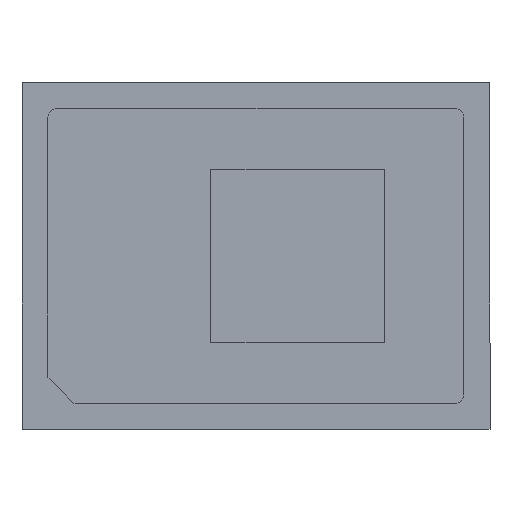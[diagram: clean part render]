
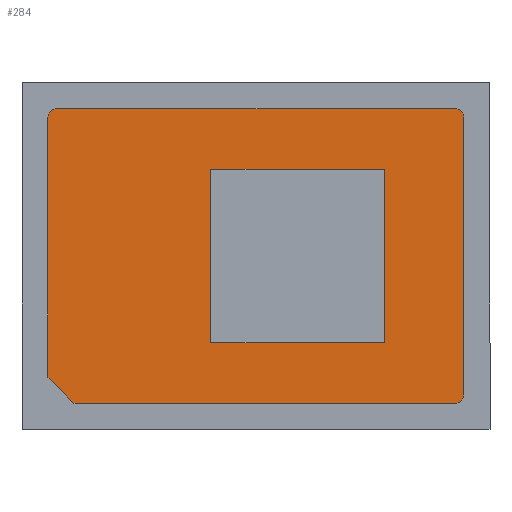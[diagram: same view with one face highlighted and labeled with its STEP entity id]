
A CAD part, top view. The second image highlights one B-rep face of the part: STEP entity #284.
In plain terms, the highlighted planar face has unit normal (0, 0, 1).
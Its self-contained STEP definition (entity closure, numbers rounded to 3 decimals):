
#1 = EDGE_LOOP ( 'NONE', ( #157, #183, #210, #5 ) ) ;
#5 = ORIENTED_EDGE ( 'NONE', *, *, #391, .F. ) ;
#6 = DIRECTION ( 'NONE',  ( -1., 0., 0. ) ) ;
#11 = AXIS2_PLACEMENT_3D ( 'NONE', #326, #202, #322 ) ;
#12 = CARTESIAN_POINT ( 'NONE',  ( -1.2, 0., 0. ) ) ;
#23 = EDGE_CURVE ( 'NONE', #57, #253, #315, .T. ) ;
#30 = CARTESIAN_POINT ( 'NONE',  ( 1.2, 0., 0. ) ) ;
#31 = VECTOR ( 'NONE', #261, 1000. ) ;
#32 = VECTOR ( 'NONE', #252, 1000. ) ;
#37 = ORIENTED_EDGE ( 'NONE', *, *, #411, .T. ) ;
#45 = CARTESIAN_POINT ( 'NONE',  ( -1.15, 0.85, 0. ) ) ;
#48 = CARTESIAN_POINT ( 'NONE',  ( -1.05, -0.85, 0. ) ) ;
#57 = VERTEX_POINT ( 'NONE', #213 ) ;
#64 = LINE ( 'NONE', #144, #79 ) ;
#65 = AXIS2_PLACEMENT_3D ( 'NONE', #166, #462, #282 ) ;
#67 = VECTOR ( 'NONE', #317, 1000. ) ;
#69 = VERTEX_POINT ( 'NONE', #45 ) ;
#73 = LINE ( 'NONE', #230, #478 ) ;
#77 = VERTEX_POINT ( 'NONE', #399 ) ;
#79 = VECTOR ( 'NONE', #352, 1000. ) ;
#84 = LINE ( 'NONE', #390, #151 ) ;
#87 = VERTEX_POINT ( 'NONE', #97 ) ;
#88 = EDGE_CURVE ( 'NONE', #385, #413, #434, .T. ) ;
#92 = LINE ( 'NONE', #209, #96 ) ;
#96 = VECTOR ( 'NONE', #218, 1000. ) ;
#97 = CARTESIAN_POINT ( 'NONE',  ( 1.15, 0.85, 0. ) ) ;
#100 = CARTESIAN_POINT ( 'NONE',  ( -1.05, -0.85, 0. ) ) ;
#110 = VERTEX_POINT ( 'NONE', #100 ) ;
#111 = EDGE_CURVE ( 'NONE', #241, #400, #369, .T. ) ;
#114 = VERTEX_POINT ( 'NONE', #474 ) ;
#120 = CARTESIAN_POINT ( 'NONE',  ( -1.15, 0.8, 0. ) ) ;
#122 = CARTESIAN_POINT ( 'NONE',  ( 0.74, -0.5, 0. ) ) ;
#125 = CIRCLE ( 'NONE', #459, 0.05 ) ;
#144 = CARTESIAN_POINT ( 'NONE',  ( 0.74, 0., 0. ) ) ;
#151 = VECTOR ( 'NONE', #320, 1000. ) ;
#152 = EDGE_CURVE ( 'NONE', #413, #414, #64, .T. ) ;
#157 = ORIENTED_EDGE ( 'NONE', *, *, #152, .F. ) ;
#166 = CARTESIAN_POINT ( 'NONE',  ( 1.15, -0.8, 0. ) ) ;
#173 = VECTOR ( 'NONE', #451, 1000. ) ;
#183 = ORIENTED_EDGE ( 'NONE', *, *, #88, .F. ) ;
#202 = DIRECTION ( 'NONE',  ( 0., 0., -1. ) ) ;
#204 = LINE ( 'NONE', #328, #67 ) ;
#205 = ORIENTED_EDGE ( 'NONE', *, *, #402, .T. ) ;
#209 = CARTESIAN_POINT ( 'NONE',  ( 0., 0.5, 0. ) ) ;
#210 = ORIENTED_EDGE ( 'NONE', *, *, #445, .F. ) ;
#213 = CARTESIAN_POINT ( 'NONE',  ( -1.2, 0.8, 0. ) ) ;
#214 = CARTESIAN_POINT ( 'NONE',  ( 1.15, 0.8, 0. ) ) ;
#218 = DIRECTION ( 'NONE',  ( -1., 0., 0. ) ) ;
#219 = CARTESIAN_POINT ( 'NONE',  ( -1.2, -0.7, 0. ) ) ;
#220 = CARTESIAN_POINT ( 'NONE',  ( 0., -0.5, 0. ) ) ;
#223 = EDGE_CURVE ( 'NONE', #69, #57, #125, .T. ) ;
#227 = ORIENTED_EDGE ( 'NONE', *, *, #111, .T. ) ;
#230 = CARTESIAN_POINT ( 'NONE',  ( -0.26, 0., 0. ) ) ;
#241 = VERTEX_POINT ( 'NONE', #479 ) ;
#242 = DIRECTION ( 'NONE',  ( 0., 0., 1. ) ) ;
#247 = VECTOR ( 'NONE', #472, 1000. ) ;
#251 = ORIENTED_EDGE ( 'NONE', *, *, #293, .T. ) ;
#252 = DIRECTION ( 'NONE',  ( 1., 0., 0. ) ) ;
#253 = VERTEX_POINT ( 'NONE', #219 ) ;
#259 = PLANE ( 'NONE',  #11 ) ;
#261 = DIRECTION ( 'NONE',  ( 1., 0., 0. ) ) ;
#278 = CARTESIAN_POINT ( 'NONE',  ( -0.26, -0.5, 0. ) ) ;
#282 = DIRECTION ( 'NONE',  ( 1., 0., 0. ) ) ;
#284 = ADVANCED_FACE ( 'NONE', ( #363, #470 ), #259, .F. ) ;
#286 = CIRCLE ( 'NONE', #65, 0.05 ) ;
#293 = EDGE_CURVE ( 'NONE', #77, #241, #286, .T. ) ;
#302 = ORIENTED_EDGE ( 'NONE', *, *, #223, .T. ) ;
#315 = LINE ( 'NONE', #12, #173 ) ;
#317 = DIRECTION ( 'NONE',  ( -1., 0., 0. ) ) ;
#320 = DIRECTION ( 'NONE',  ( 0.707, -0.707, 0. ) ) ;
#322 = DIRECTION ( 'NONE',  ( -1., 0., 0. ) ) ;
#326 = CARTESIAN_POINT ( 'NONE',  ( 0., 0., 0. ) ) ;
#328 = CARTESIAN_POINT ( 'NONE',  ( -1.15, 0.85, 0. ) ) ;
#343 = DIRECTION ( 'NONE',  ( 0., -1., 0. ) ) ;
#352 = DIRECTION ( 'NONE',  ( 0., 1., 0. ) ) ;
#353 = CARTESIAN_POINT ( 'NONE',  ( 1.2, 0.8, 0. ) ) ;
#363 = FACE_OUTER_BOUND ( 'NONE', #409, .T. ) ;
#369 = LINE ( 'NONE', #30, #247 ) ;
#378 = ORIENTED_EDGE ( 'NONE', *, *, #387, .T. ) ;
#382 = ORIENTED_EDGE ( 'NONE', *, *, #23, .T. ) ;
#385 = VERTEX_POINT ( 'NONE', #278 ) ;
#387 = EDGE_CURVE ( 'NONE', #110, #77, #430, .T. ) ;
#390 = CARTESIAN_POINT ( 'NONE',  ( -1.05, -0.85, 0. ) ) ;
#391 = EDGE_CURVE ( 'NONE', #414, #114, #92, .T. ) ;
#399 = CARTESIAN_POINT ( 'NONE',  ( 1.15, -0.85, 0. ) ) ;
#400 = VERTEX_POINT ( 'NONE', #353 ) ;
#402 = EDGE_CURVE ( 'NONE', #400, #87, #448, .T. ) ;
#409 = EDGE_LOOP ( 'NONE', ( #227, #205, #37, #302, #382, #471, #378, #251 ) ) ;
#411 = EDGE_CURVE ( 'NONE', #87, #69, #204, .T. ) ;
#413 = VERTEX_POINT ( 'NONE', #122 ) ;
#414 = VERTEX_POINT ( 'NONE', #468 ) ;
#419 = EDGE_CURVE ( 'NONE', #253, #110, #84, .T. ) ;
#430 = LINE ( 'NONE', #48, #32 ) ;
#434 = LINE ( 'NONE', #220, #31 ) ;
#445 = EDGE_CURVE ( 'NONE', #114, #385, #73, .T. ) ;
#448 = CIRCLE ( 'NONE', #477, 0.05 ) ;
#451 = DIRECTION ( 'NONE',  ( 0., -1., 0. ) ) ;
#452 = DIRECTION ( 'NONE',  ( 1., 0., 0. ) ) ;
#456 = DIRECTION ( 'NONE',  ( 0., 0., 1. ) ) ;
#459 = AXIS2_PLACEMENT_3D ( 'NONE', #120, #242, #6 ) ;
#462 = DIRECTION ( 'NONE',  ( 0., 0., 1. ) ) ;
#468 = CARTESIAN_POINT ( 'NONE',  ( 0.74, 0.5, 0. ) ) ;
#470 = FACE_BOUND ( 'NONE', #1, .T. ) ;
#471 = ORIENTED_EDGE ( 'NONE', *, *, #419, .T. ) ;
#472 = DIRECTION ( 'NONE',  ( 0., 1., 0. ) ) ;
#474 = CARTESIAN_POINT ( 'NONE',  ( -0.26, 0.5, 0. ) ) ;
#477 = AXIS2_PLACEMENT_3D ( 'NONE', #214, #456, #452 ) ;
#478 = VECTOR ( 'NONE', #343, 1000. ) ;
#479 = CARTESIAN_POINT ( 'NONE',  ( 1.2, -0.8, 0. ) ) ;
